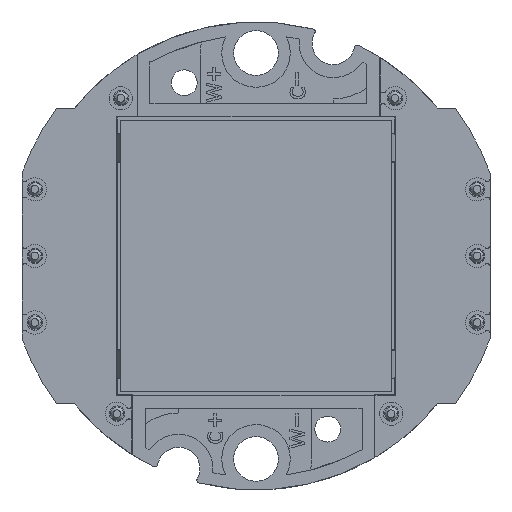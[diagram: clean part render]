
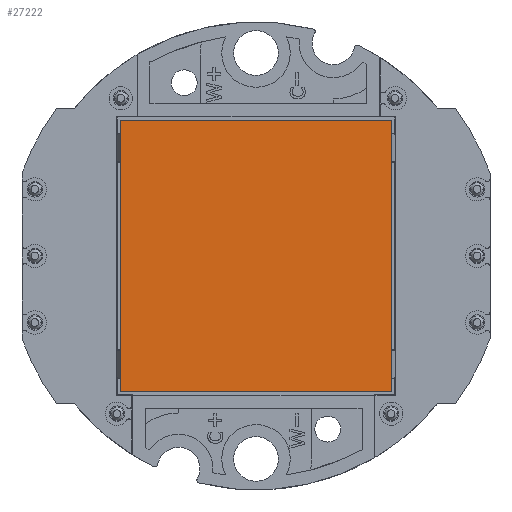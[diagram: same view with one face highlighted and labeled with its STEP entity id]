
A CAD part, front view. The second image highlights one B-rep face of the part: STEP entity #27222.
In plain terms, the highlighted planar face has unit normal (0, -1, 0).
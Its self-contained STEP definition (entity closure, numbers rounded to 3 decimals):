
#1557 = DIRECTION ( 'NONE',  ( -1., 0., 0. ) ) ;
#2263 = LINE ( 'NONE', #30296, #27787 ) ;
#5346 = VECTOR ( 'NONE', #29860, 1000. ) ;
#8352 = LINE ( 'NONE', #49043, #5346 ) ;
#9690 = PLANE ( 'NONE',  #14793 ) ;
#9702 = EDGE_LOOP ( 'NONE', ( #31735, #16240, #32322, #20091 ) ) ;
#11499 = VERTEX_POINT ( 'NONE', #47291 ) ;
#11621 = VERTEX_POINT ( 'NONE', #33618 ) ;
#13339 = CARTESIAN_POINT ( 'NONE',  ( -23.779, -12.76, 1.521 ) ) ;
#14651 = VECTOR ( 'NONE', #51828, 1000. ) ;
#14715 = CARTESIAN_POINT ( 'NONE',  ( 4.34, -12.76, 110.652 ) ) ;
#14793 = AXIS2_PLACEMENT_3D ( 'NONE', #14715, #48344, #19542 ) ;
#16240 = ORIENTED_EDGE ( 'NONE', *, *, #58180, .F. ) ;
#19542 = DIRECTION ( 'NONE',  ( 0., 0., -1. ) ) ;
#19892 = CARTESIAN_POINT ( 'NONE',  ( -23.779, -12.76, 22.521 ) ) ;
#20091 = ORIENTED_EDGE ( 'NONE', *, *, #57175, .F. ) ;
#23987 = VERTEX_POINT ( 'NONE', #52595 ) ;
#24687 = DIRECTION ( 'NONE',  ( 1., 0., 0. ) ) ;
#27222 = ADVANCED_FACE ( 'NONE', ( #51980 ), #9690, .F. ) ;
#27787 = VECTOR ( 'NONE', #1557, 1000. ) ;
#29860 = DIRECTION ( 'NONE',  ( 0., 0., -1. ) ) ;
#29951 = VERTEX_POINT ( 'NONE', #52163 ) ;
#30296 = CARTESIAN_POINT ( 'NONE',  ( -2.779, -12.76, 1.521 ) ) ;
#31590 = EDGE_CURVE ( 'NONE', #23987, #29951, #40205, .T. ) ;
#31735 = ORIENTED_EDGE ( 'NONE', *, *, #33463, .F. ) ;
#32322 = ORIENTED_EDGE ( 'NONE', *, *, #31590, .F. ) ;
#33463 = EDGE_CURVE ( 'NONE', #11499, #11621, #8352, .T. ) ;
#33618 = CARTESIAN_POINT ( 'NONE',  ( -2.779, -12.76, 1.521 ) ) ;
#40205 = LINE ( 'NONE', #13339, #14651 ) ;
#46953 = VECTOR ( 'NONE', #24687, 1000. ) ;
#47291 = CARTESIAN_POINT ( 'NONE',  ( -2.779, -12.76, 22.521 ) ) ;
#48344 = DIRECTION ( 'NONE',  ( 0., 1., 0. ) ) ;
#48441 = LINE ( 'NONE', #19892, #46953 ) ;
#49043 = CARTESIAN_POINT ( 'NONE',  ( -2.779, -12.76, 22.521 ) ) ;
#51828 = DIRECTION ( 'NONE',  ( 0., 0., 1. ) ) ;
#51980 = FACE_OUTER_BOUND ( 'NONE', #9702, .T. ) ;
#52163 = CARTESIAN_POINT ( 'NONE',  ( -23.779, -12.76, 22.521 ) ) ;
#52595 = CARTESIAN_POINT ( 'NONE',  ( -23.779, -12.76, 1.521 ) ) ;
#57175 = EDGE_CURVE ( 'NONE', #11621, #23987, #2263, .T. ) ;
#58180 = EDGE_CURVE ( 'NONE', #29951, #11499, #48441, .T. ) ;
